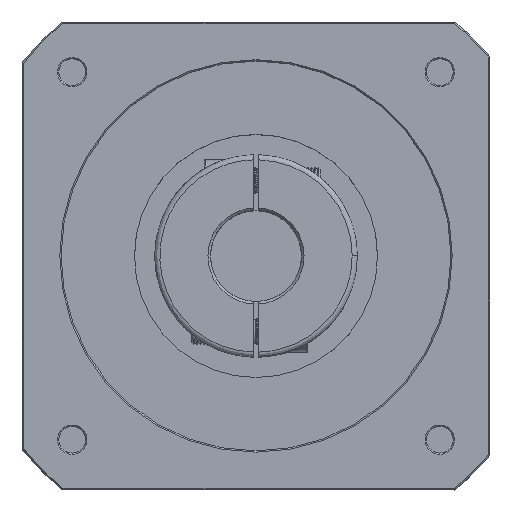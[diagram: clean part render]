
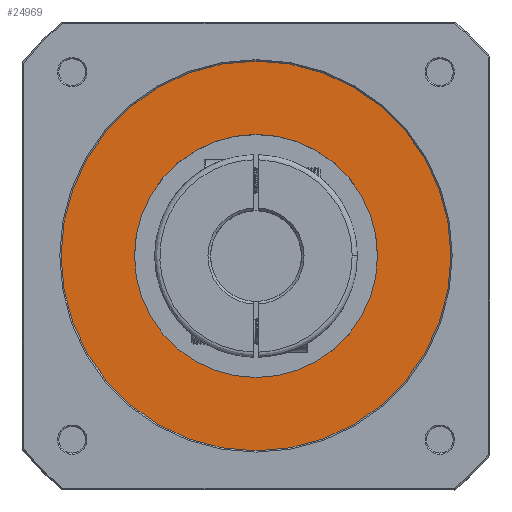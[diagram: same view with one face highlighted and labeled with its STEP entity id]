
A CAD part, top view. The second image highlights one B-rep face of the part: STEP entity #24969.
In plain terms, the highlighted planar face has unit normal (0, 0, -1).
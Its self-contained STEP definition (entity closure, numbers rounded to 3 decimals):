
#1682 = CARTESIAN_POINT ( 'NONE',  ( 0., 0., 157.5 ) ) ;
#4819 = AXIS2_PLACEMENT_3D ( 'NONE', #1682, #49814, #8665 ) ;
#7677 = VERTEX_POINT ( 'NONE', #78806 ) ;
#8665 = DIRECTION ( 'NONE',  ( -1., 0., 0. ) ) ;
#8942 = EDGE_LOOP ( 'NONE', ( #64903, #35787 ) ) ;
#9800 = DIRECTION ( 'NONE',  ( 0., 0., 1. ) ) ;
#16145 = EDGE_CURVE ( 'NONE', #84437, #62750, #88640, .T. ) ;
#17039 = CIRCLE ( 'NONE', #4819, 46.75 ) ;
#18210 = AXIS2_PLACEMENT_3D ( 'NONE', #19097, #67082, #26090 ) ;
#18798 = VERTEX_POINT ( 'NONE', #63475 ) ;
#19097 = CARTESIAN_POINT ( 'NONE',  ( 0., 0., 157.5 ) ) ;
#23752 = DIRECTION ( 'NONE',  ( 0., 0., 1. ) ) ;
#24969 = ADVANCED_FACE ( 'NONE', ( #84885, #78470 ), #64432, .F. ) ;
#26090 = DIRECTION ( 'NONE',  ( 1., 0., 0. ) ) ;
#33377 = DIRECTION ( 'NONE',  ( 0., 0., -1. ) ) ;
#35787 = ORIENTED_EDGE ( 'NONE', *, *, #64663, .T. ) ;
#40239 = EDGE_CURVE ( 'NONE', #18798, #7677, #17039, .T. ) ;
#42547 = CARTESIAN_POINT ( 'NONE',  ( -75., 0., 157.5 ) ) ;
#44529 = AXIS2_PLACEMENT_3D ( 'NONE', #50937, #9800, #57802 ) ;
#49203 = CARTESIAN_POINT ( 'NONE',  ( 75., 0., 157.5 ) ) ;
#49814 = DIRECTION ( 'NONE',  ( 0., 0., 1. ) ) ;
#50937 = CARTESIAN_POINT ( 'NONE',  ( -75.9, -75.9, 157.5 ) ) ;
#52862 = CIRCLE ( 'NONE', #71963, 46.75 ) ;
#57802 = DIRECTION ( 'NONE',  ( 1., 0., 0. ) ) ;
#62151 = ORIENTED_EDGE ( 'NONE', *, *, #68945, .T. ) ;
#62750 = VERTEX_POINT ( 'NONE', #42547 ) ;
#63475 = CARTESIAN_POINT ( 'NONE',  ( 46.75, 0., 157.5 ) ) ;
#64432 = PLANE ( 'NONE',  #44529 ) ;
#64663 = EDGE_CURVE ( 'NONE', #62750, #84437, #80729, .T. ) ;
#64802 = CARTESIAN_POINT ( 'NONE',  ( 0., 0., 157.5 ) ) ;
#64903 = ORIENTED_EDGE ( 'NONE', *, *, #16145, .T. ) ;
#67082 = DIRECTION ( 'NONE',  ( 0., 0., -1. ) ) ;
#68944 = EDGE_LOOP ( 'NONE', ( #62151, #78404 ) ) ;
#68945 = EDGE_CURVE ( 'NONE', #7677, #18798, #52862, .T. ) ;
#71667 = DIRECTION ( 'NONE',  ( -1., 0., 0. ) ) ;
#71963 = AXIS2_PLACEMENT_3D ( 'NONE', #64802, #23752, #71667 ) ;
#73896 = AXIS2_PLACEMENT_3D ( 'NONE', #74348, #33377, #81296 ) ;
#74348 = CARTESIAN_POINT ( 'NONE',  ( 0., 0., 157.5 ) ) ;
#78404 = ORIENTED_EDGE ( 'NONE', *, *, #40239, .T. ) ;
#78470 = FACE_OUTER_BOUND ( 'NONE', #8942, .T. ) ;
#78806 = CARTESIAN_POINT ( 'NONE',  ( -46.75, 0., 157.5 ) ) ;
#80729 = CIRCLE ( 'NONE', #73896, 75. ) ;
#81296 = DIRECTION ( 'NONE',  ( 1., 0., 0. ) ) ;
#84437 = VERTEX_POINT ( 'NONE', #49203 ) ;
#84885 = FACE_BOUND ( 'NONE', #68944, .T. ) ;
#88640 = CIRCLE ( 'NONE', #18210, 75. ) ;
